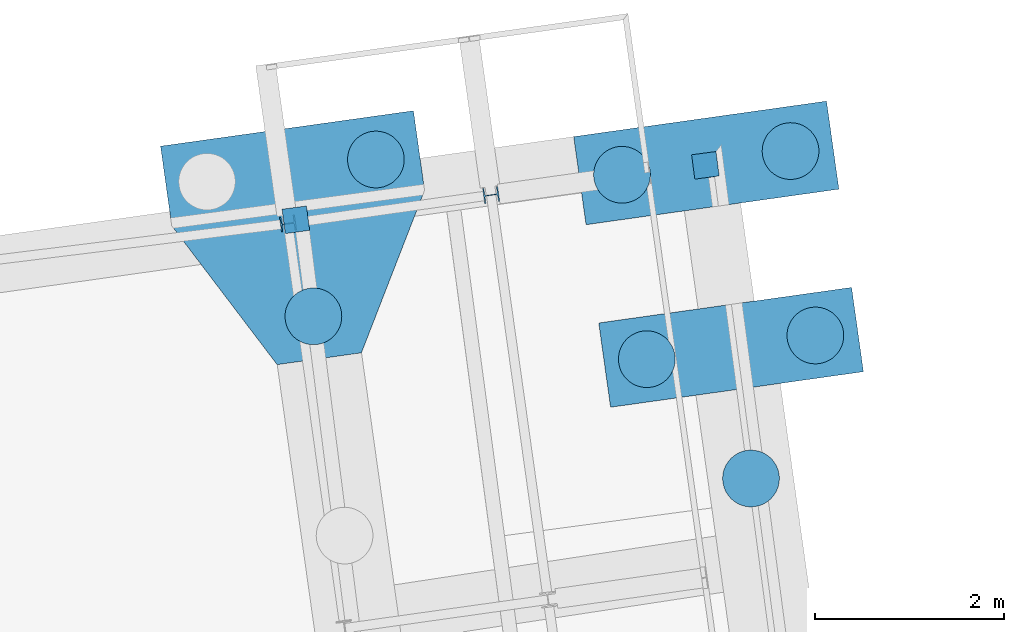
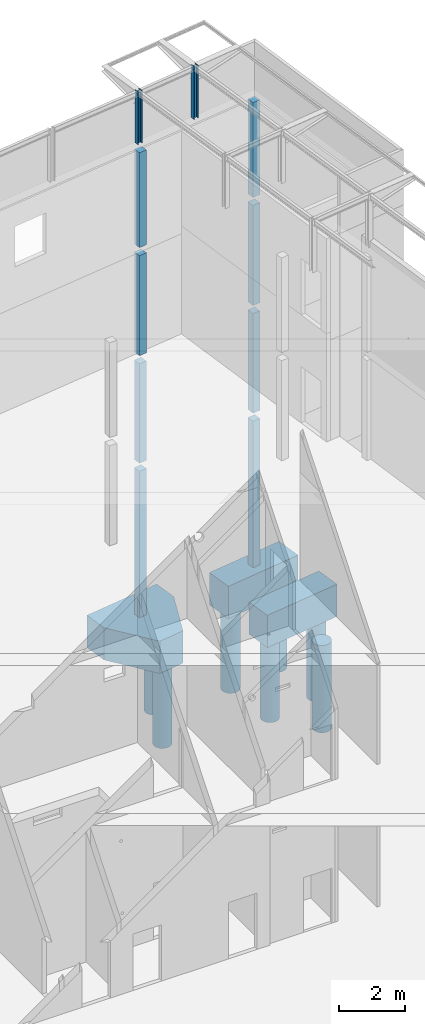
# One storey, part 59 of 82: 20 columns.
"""IFC2X3 building model written with IfcOpenShell, lengths in millimetres."""

from ifc_helpers import new_model, si_unit, frame, frame_2d, origin_with_axes, place, context, subcontext, project, spatial, polyline, rectangle, circle, i_section, outline, extrude, material, type_object, element, save


model = new_model("IFC2X3")

# Units and contexts
model_context = context("Model", 3, precision=1e-05, world=origin_with_axes())
body_context = subcontext(model_context, "Body", "Model", "MODEL_VIEW")
ifc_project = project(units=[si_unit("LENGTHUNIT", "METRE", prefix="MILLI"), si_unit("AREAUNIT", "SQUARE_METRE"), si_unit("VOLUMEUNIT", "CUBIC_METRE"), si_unit("MASSUNIT", "GRAM", prefix="KILO"), si_unit("TIMEUNIT", "SECOND"), si_unit("PLANEANGLEUNIT", "RADIAN"), si_unit("SOLIDANGLEUNIT", "STERADIAN"), si_unit("THERMODYNAMICTEMPERATUREUNIT", "DEGREE_CELSIUS"), si_unit("LUMINOUSINTENSITYUNIT", "LUMEN")], contexts=[model_context])

# Site, building, storey
site_placement = place(None, origin_with_axes())
site = spatial("IfcSite", under=ifc_project, at=site_placement, Name="Undefined", CompositionType="ELEMENT")
building_placement = place(site_placement, origin_with_axes())
building = spatial("IfcBuilding", under=site, at=building_placement, Name="Undefined", CompositionType="ELEMENT")
storey_placement = place(building_placement, origin_with_axes())
storey = spatial("IfcBuildingStorey", under=building, at=storey_placement, Name="Undefined", CompositionType="ELEMENT", Elevation=0.0)

# Columns
ifc_material_1 = material(Name="CONCRETE/C25/30")
column_type_1 = type_object("IfcColumnType", Name="260*260", PredefinedType="NOTDEFINED")
for number, where, z_axis, x_axis, name in (
    (1, (67012.1161658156, 27485.7474632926, 13330.0), (0.0, 0.0, 1.0), (1.0, 0.0, 0.0), "POTEAU"),
    (2, (62681.3965828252, 26910.2602209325, 13330.0), (0.0, 0.0, 1.0), (1.0, 0.0, 0.0), "POTEAU"),
):
    element("IfcColumn", number, at=place(storey_placement, frame(where, z_axis=z_axis, x_axis=x_axis)), inside=storey, type_object=column_type_1, material=ifc_material_1, Name=name, ObjectType="260*260", context=body_context, shape_type="SweptSolid", body=[
        extrude(rectangle(XDim=260.0, YDim=260.0, at=frame_2d((5.17284206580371e-08, 4.49290382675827e-10), x_axis=(1.0, 0.0))), frame((0.0, 0.000229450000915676, 3530.0), z_axis=(0.0, -6.50000002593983e-08, -0.999999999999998), x_axis=(-0.131726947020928, 0.991286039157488, -6.44335928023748e-08)), (0.0, 0.0, 1.0), 3530.0),
    ])
for number, where, z_axis, x_axis, name in (
    (3, (67012.1161658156, 27485.7474632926, 9305.0), (0.0, 0.0, 1.0), (1.0, 0.0, 0.0), "POTEAU"),
    (4, (62681.3965828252, 26910.2602209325, 9305.0), (0.0, 0.0, 1.0), (1.0, 0.0, 0.0), "POTEAU"),
):
    element("IfcColumn", number, at=place(storey_placement, frame(where, z_axis=z_axis, x_axis=x_axis)), inside=storey, type_object=column_type_1, material=ifc_material_1, Name=name, ObjectType="260*260", context=body_context, shape_type="SweptSolid", body=[
        extrude(rectangle(XDim=260.0, YDim=260.0, at=frame_2d((5.17284206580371e-08, 4.49290382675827e-10), x_axis=(1.0, 0.0))), frame((0.0, 0.000227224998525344, 3725.0), z_axis=(0.0, -6.50000002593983e-08, -0.999999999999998), x_axis=(-0.131726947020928, 0.991286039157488, -6.44335928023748e-08)), (0.0, 0.0, 1.0), 3725.0),
    ])
for number, where, z_axis, x_axis, name in (
    (5, (67012.1161658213, 27485.7474632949, 5300.0), (0.0, 0.0, 1.0), (1.0, 0.0, 0.0), "POTEAU"),
    (6, (62681.396582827, 26910.2602209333, 5300.0), (0.0, 0.0, 1.0), (1.0, 0.0, 0.0), "POTEAU"),
):
    element("IfcColumn", number, at=place(storey_placement, frame(where, z_axis=z_axis, x_axis=x_axis)), inside=storey, type_object=column_type_1, material=ifc_material_1, Name=name, ObjectType="260*260", context=body_context, shape_type="SweptSolid", body=[
        extrude(rectangle(XDim=260.0, YDim=260.0, at=frame_2d((5.17284206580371e-08, 4.49290382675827e-10), x_axis=(1.0, 0.0))), frame((0.0, 0.000229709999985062, 3705.0), z_axis=(0.0, -6.50000002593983e-08, -0.999999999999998), x_axis=(-0.131726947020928, 0.991286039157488, -6.44335928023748e-08)), (0.0, 0.0, 1.0), 3705.0),
    ])
column_1_placement = place(storey_placement, frame((67012.116165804, 27485.7474632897, -449.999954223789), z_axis=(0.0, 0.0, 1.0), x_axis=(1.0, 0.0, 0.0)))
element("IfcColumn", 7, at=column_1_placement, inside=storey, type_object=column_type_1, material=ifc_material_1, Name="POTEAU", ObjectType="260*260", context=body_context, shape_type="SweptSolid", body=[
    extrude(rectangle(XDim=260.0, YDim=260.0, at=frame_2d((5.17284206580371e-08, 4.49290382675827e-10), x_axis=(1.0, 0.0))), frame((0.0, 0.000228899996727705, 5449.99995422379), z_axis=(0.0, -6.50000002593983e-08, -0.999999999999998), x_axis=(-0.131726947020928, 0.991286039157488, -6.44335928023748e-08)), (0.0, 0.0, 1.0), 5450.0),
])
column_2_placement = place(storey_placement, frame((62681.3965828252, 26910.2602209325, -449.998535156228), z_axis=(0.0, 0.0, 1.0), x_axis=(1.0, 0.0, 0.0)))
element("IfcColumn", 8, at=column_2_placement, inside=storey, type_object=column_type_1, material=ifc_material_1, Name="POTEAU", ObjectType="260*260", context=body_context, shape_type="SweptSolid", body=[
    extrude(rectangle(XDim=260.0, YDim=260.0, at=frame_2d((5.17284206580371e-08, 4.49290382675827e-10), x_axis=(1.0, 0.0))), frame((0.0, 0.000228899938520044, 5449.99853515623), z_axis=(0.0, -6.50000002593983e-08, -0.999999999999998), x_axis=(-0.131726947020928, 0.991286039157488, -6.44335928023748e-08)), (0.0, 0.0, 1.0), 5450.0),
])
ifc_material_2 = material(Name="STEEL/S275JR")
column_type_2 = type_object("IfcColumnType", Name="HEB160", PredefinedType="NOTDEFINED")
for number, where, z_axis, x_axis, name in (
    (9, (64746.6731969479, 27171.562543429, 17160.0), (0.0, 0.0, 1.0), (1.0, 0.0, 0.0), "POTEAU"),
    (10, (62597.7910810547, 26869.5523022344, 17160.0), (0.0, 0.0, 1.0), (1.0, 0.0, 0.0), "POTEAU"),
):
    element("IfcColumn", number, at=place(storey_placement, frame(where, z_axis=z_axis, x_axis=x_axis)), inside=storey, type_object=column_type_2, material=ifc_material_2, Name=name, ObjectType="HEB160", context=body_context, shape_type="SweptSolid", body=[
        extrude(i_section(OverallWidth=160.0, OverallDepth=160.0, WebThickness=8.0, FlangeThickness=13.0, FilletRadius=15.0, at=frame_2d((5.17284206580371e-08, 4.49290382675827e-10), x_axis=(1.0, 0.0))), frame((0.0, 0.0, 1965.0), z_axis=(0.0, -6.50000002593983e-08, -0.999999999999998), x_axis=(-0.139177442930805, 0.990267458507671, 0.0)), (0.0, 0.0, 1.0), 1965.0),
    ])
ifc_material_3 = material(Name="CONCRETE/C30/37")
column_type_3 = type_object("IfcColumnType", Name="2700*900", PredefinedType="NOTDEFINED")
column_3_placement = place(storey_placement, frame((67283.7687345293, 25561.3378774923, -1650.0), z_axis=(0.0, 0.0, 1.0), x_axis=(1.0, 0.0, 0.0)))
element("IfcColumn", 11, at=column_3_placement, inside=storey, type_object=column_type_3, material=ifc_material_3, Name="SEMELLE", ObjectType="2700*900", context=body_context, shape_type="SweptSolid", body=[
    extrude(rectangle(XDim=900.0, YDim=2700.0, at=frame_2d((5.17284206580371e-08, 4.49290382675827e-10), x_axis=(1.0, 0.0))), frame((0.0, 0.0, 1200.0), z_axis=(0.0, -6.50000002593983e-08, -0.999999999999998), x_axis=(0.13917310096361, -0.990268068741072, 0.0)), (0.0, 0.0, 1.0), 1200.0),
])
column_type_4 = type_object("IfcColumnType", Name="1200*2459", PredefinedType="NOTDEFINED")
column_4_placement = place(storey_placement, frame((63924.5859521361, 28063.1945088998, -1050.00146146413), z_axis=(0.0, 0.0, 1.0), x_axis=(-0.990316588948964, -0.138827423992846, 0.0)))
element("IfcColumn", 12, at=column_4_placement, inside=storey, type_object=column_type_4, material=ifc_material_3, Name="SEMELLE", ObjectType="1200*2459", context=body_context, shape_type="SweptSolid", body=[
    extrude(outline(polyline([(5.17284206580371e-08, 4.49290382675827e-10), (2700.00000002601, 4.04543243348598e-09), (2700.000000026, 849.999999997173), (1800.00000002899, 2458.80004881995), (900.000000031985, 2458.80004881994), (0.0774713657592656, 850.138488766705), (5.17284206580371e-08, 4.49290382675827e-10)])), frame((0.0, 0.0, -600.0), z_axis=(0.0, 0.0, 1.0), x_axis=(1.0, 0.0, 0.0)), (0.0, 0.0, 1.0), 1200.0),
])
column_type_5 = type_object("IfcColumnType", Name="2700*940", PredefinedType="NOTDEFINED")
column_5_placement = place(storey_placement, frame((67021.5032845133, 27511.4666818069, -1650.0), z_axis=(0.0, 0.0, 1.0), x_axis=(1.0, 0.0, 0.0)))
element("IfcColumn", 13, at=column_5_placement, inside=storey, type_object=column_type_5, material=ifc_material_3, Name="SEMELLE", ObjectType="2700*940", context=body_context, shape_type="SweptSolid", body=[
    extrude(rectangle(XDim=940.0, YDim=2700.0, at=frame_2d((5.17284206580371e-08, 4.49290382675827e-10), x_axis=(1.0, 0.0))), frame((0.0, 0.0, 1200.0), z_axis=(0.0, -6.50000002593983e-08, -0.999999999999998), x_axis=(0.13917310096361, -0.990268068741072, 0.0)), (0.0, 0.0, 1.0), 1200.0),
])
column_type_6 = type_object("IfcColumnType", Name="D600", PredefinedType="NOTDEFINED")
column_6_placement = place(storey_placement, frame((67494.2993202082, 24174.4213726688, -4675.0), z_axis=(0.0, 0.0, 1.0), x_axis=(1.0, 0.0, 0.0)))
element("IfcColumn", 14, at=column_6_placement, inside=storey, type_object=column_type_6, material=ifc_material_1, Name="PIEU", ObjectType="D600", context=body_context, shape_type="SweptSolid", body=[
    extrude(circle(Radius=300.0, at=frame_2d((5.17284206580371e-08, 4.49290382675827e-10), x_axis=(1.0, 0.0))), frame((0.0, 0.0, 3250.0), z_axis=(0.0, -6.50000002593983e-08, -0.999999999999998), x_axis=(0.146083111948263, -0.989272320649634, 0.0)), (0.0, 0.0, 1.0), 3250.0),
])
for number, where, z_axis, x_axis in (
    (15, (66392.5286213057, 25436.079864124, -4675.0), (0.0, 0.0, 1.0), (1.0, 0.0, 0.0)),
    (16, (68175.0067986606, 25686.5946031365, -4675.0), (0.0, 0.0, 1.0), (1.0, 0.0, 0.0)),
    (17, (66130.2618896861, 27386.2109556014, -4675.0), (0.0, 0.0, 1.0), (1.0, 0.0, 0.0)),
    (18, (67912.7400670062, 27636.7256946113, -4675.0), (0.0, 0.0, 1.0), (1.0, 0.0, 0.0)),
):
    element("IfcColumn", number, at=place(storey_placement, frame(where, z_axis=z_axis, x_axis=x_axis)), inside=storey, type_object=column_type_6, material=ifc_material_1, Name="PIEU", ObjectType="D600", context=body_context, shape_type="SweptSolid", body=[
        extrude(circle(Radius=300.0, at=frame_2d((5.17284206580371e-08, 4.49290382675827e-10), x_axis=(1.0, 0.0))), frame((0.0, 0.0, 3250.0), z_axis=(0.0, -6.50000002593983e-08, -0.999999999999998), x_axis=(-0.132256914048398, 0.991215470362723, 0.0)), (0.0, 0.0, 1.0), 3250.0),
    ])
for number, where, z_axis, x_axis in (
    (19, (63527.7424459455, 27547.556194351, -4675.0), (0.0, 0.0, 1.0), (1.0, 0.0, 0.0)),
    (20, (62866.9161386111, 25888.7308852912, -4675.0), (0.0, 0.0, 1.0), (1.0, 0.0, 0.0)),
):
    element("IfcColumn", number, at=place(storey_placement, frame(where, z_axis=z_axis, x_axis=x_axis)), inside=storey, type_object=column_type_6, material=ifc_material_1, Name="PIEU", ObjectType="D600", context=body_context, shape_type="SweptSolid", body=[
        extrude(circle(Radius=300.0, at=frame_2d((5.17284206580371e-08, 4.49290382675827e-10), x_axis=(1.0, 0.0))), frame((0.0, 0.0, 3250.0), z_axis=(0.0, -6.50000002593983e-08, -0.999999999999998), x_axis=(-0.382683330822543, -0.92387957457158, 0.0)), (0.0, 0.0, 1.0), 3250.0),
    ])

save(model, "model.ifc")
